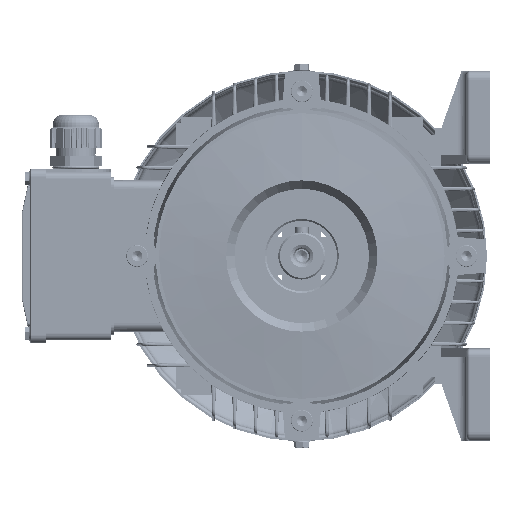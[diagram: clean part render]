
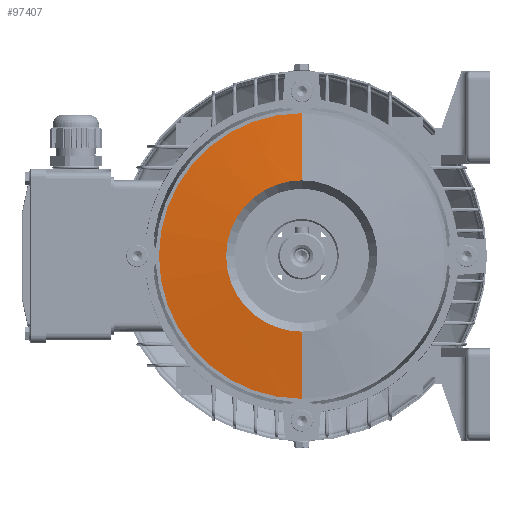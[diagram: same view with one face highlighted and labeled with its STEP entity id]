
A CAD part, left-side view. The second image highlights one B-rep face of the part: STEP entity #97407.
In plain terms, the highlighted conical face has half-angle 84.289 degrees and reference radius 85 mm.
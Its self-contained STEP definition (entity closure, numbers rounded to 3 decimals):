
#1506 = LINE ( 'NONE', #91007, #112912 ) ;
#1536 = DIRECTION ( 'NONE',  ( 0.1, 0., 0.995 ) ) ;
#13823 = DIRECTION ( 'NONE',  ( 0., 0., -1. ) ) ;
#13975 = VERTEX_POINT ( 'NONE', #63272 ) ;
#15765 = CARTESIAN_POINT ( 'NONE',  ( -8., 0., -85. ) ) ;
#16381 = DIRECTION ( 'NONE',  ( -1., 0., 0. ) ) ;
#26932 = VERTEX_POINT ( 'NONE', #92060 ) ;
#27739 = CONICAL_SURFACE ( 'NONE', #68451, 85., 1.471 ) ;
#36784 = DIRECTION ( 'NONE',  ( 0.1, 0., -0.995 ) ) ;
#43484 = ORIENTED_EDGE ( 'NONE', *, *, #59351, .F. ) ;
#44102 = EDGE_CURVE ( 'NONE', #118829, #47642, #1506, .T. ) ;
#46654 = CARTESIAN_POINT ( 'NONE',  ( -12., 0., 45. ) ) ;
#47642 = VERTEX_POINT ( 'NONE', #56219 ) ;
#55082 = DIRECTION ( 'NONE',  ( 1., 0., 0. ) ) ;
#55511 = CARTESIAN_POINT ( 'NONE',  ( -8., 0., 0. ) ) ;
#56219 = CARTESIAN_POINT ( 'NONE',  ( -8., 0., 85. ) ) ;
#59351 = EDGE_CURVE ( 'NONE', #26932, #13975, #111421, .T. ) ;
#60492 = FACE_OUTER_BOUND ( 'NONE', #62293, .T. ) ;
#62293 = EDGE_LOOP ( 'NONE', ( #68061, #122994, #80134, #43484 ) ) ;
#63272 = CARTESIAN_POINT ( 'NONE',  ( -8., 0., -85. ) ) ;
#68061 = ORIENTED_EDGE ( 'NONE', *, *, #113577, .F. ) ;
#68451 = AXIS2_PLACEMENT_3D ( 'NONE', #55511, #55082, #13823 ) ;
#70037 = CARTESIAN_POINT ( 'NONE',  ( -12., 0., 0. ) ) ;
#70549 = CIRCLE ( 'NONE', #108294, 45. ) ;
#76910 = VECTOR ( 'NONE', #36784, 1000. ) ;
#80134 = ORIENTED_EDGE ( 'NONE', *, *, #101088, .T. ) ;
#91007 = CARTESIAN_POINT ( 'NONE',  ( -8., 0., 85. ) ) ;
#91548 = AXIS2_PLACEMENT_3D ( 'NONE', #106874, #16381, #96307 ) ;
#92060 = CARTESIAN_POINT ( 'NONE',  ( -12., 0., -45. ) ) ;
#96307 = DIRECTION ( 'NONE',  ( 0., 0., 1. ) ) ;
#97407 = ADVANCED_FACE ( 'NONE', ( #60492 ), #27739, .T. ) ;
#99511 = DIRECTION ( 'NONE',  ( -1., 0., 0. ) ) ;
#101088 = EDGE_CURVE ( 'NONE', #47642, #13975, #108957, .T. ) ;
#106874 = CARTESIAN_POINT ( 'NONE',  ( -8., 0., 0. ) ) ;
#108294 = AXIS2_PLACEMENT_3D ( 'NONE', #70037, #99511, #129338 ) ;
#108957 = CIRCLE ( 'NONE', #91548, 85. ) ;
#111421 = LINE ( 'NONE', #15765, #76910 ) ;
#112912 = VECTOR ( 'NONE', #1536, 1000. ) ;
#113577 = EDGE_CURVE ( 'NONE', #118829, #26932, #70549, .T. ) ;
#118829 = VERTEX_POINT ( 'NONE', #46654 ) ;
#122994 = ORIENTED_EDGE ( 'NONE', *, *, #44102, .T. ) ;
#129338 = DIRECTION ( 'NONE',  ( 0., 0., 1. ) ) ;
